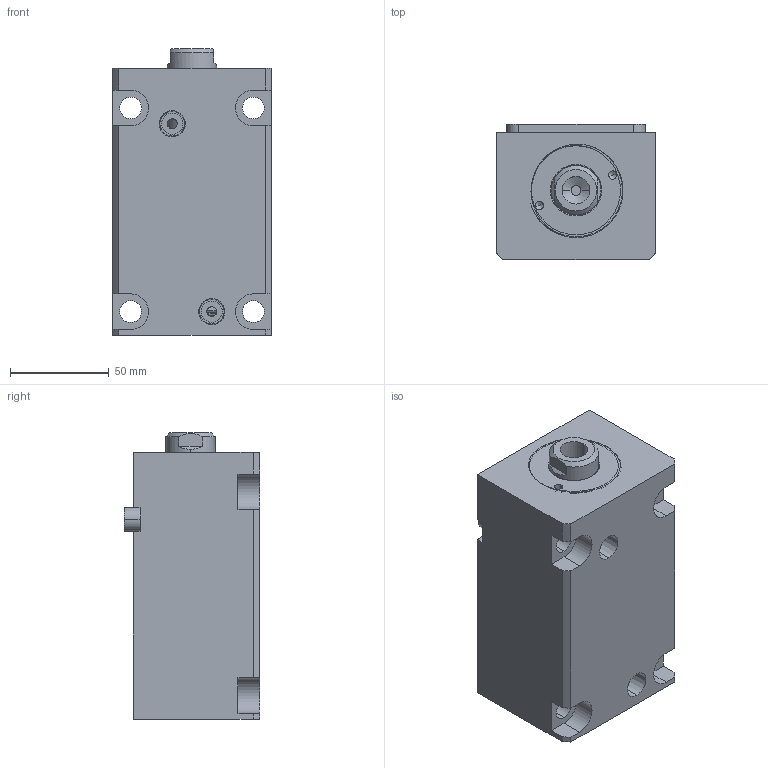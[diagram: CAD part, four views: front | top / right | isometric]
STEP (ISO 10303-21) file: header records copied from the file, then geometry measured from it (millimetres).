
FILE_DESCRIPTION (( 'STEP AP214' ), '1' );
FILE_NAME ('chtb-la40x80n_asm.STEP', '2018-05-31T01:55:24', ( 'Windows' ), ( 'Microsoft' ), 'SwSTEP 2.0', 'SolidWorks 2015', '' );
FILE_SCHEMA (( 'AUTOMOTIVE_DESIGN' ));
Length unit declared in the file: millimetre
Products named in the file (5): CHTB-LA40PJ; CHTB-SD40QG; CHTB-SD40X80NHSG; CHTB-LA40X80NBT; chtb-la40x80n_asm
Assembly tree (4 placements, depth 2):
  chtb-la40x80n_asm
    CHTB-LA40X80NBT
    CHTB-SD40X80NHSG
    CHTB-SD40QG
    CHTB-LA40PJ
Bounding box: 80 x 68.5 x 145 mm (x, y, z)
Volume: 590563.9 mm3; surface area: 104682.1 mm2
Topology: 4 solids, 4 shells, 160 faces, 430 edges, 286 vertices
Faces by surface type: cylinder 73, plane 48, bspline 14, cone 13, torus 12
Entity records: 10258 total; most frequent: CARTESIAN_POINT 6106, ORIENTED_EDGE 848, DIRECTION 787, EDGE_CURVE 424, AXIS2_PLACEMENT_3D 314, VERTEX_POINT 286, EDGE_LOOP 188, CIRCLE 161
